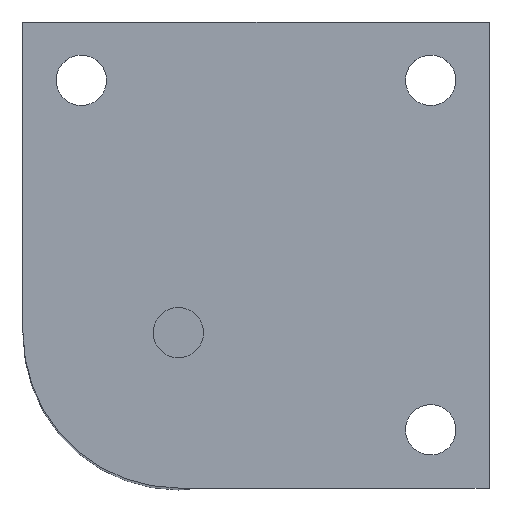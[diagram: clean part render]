
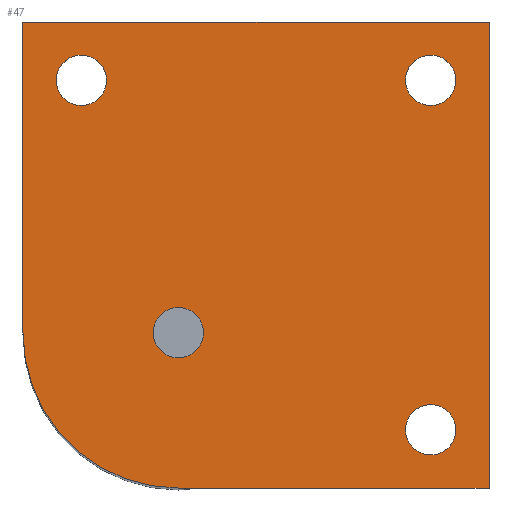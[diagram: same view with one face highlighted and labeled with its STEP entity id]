
A CAD part, top view. The second image highlights one B-rep face of the part: STEP entity #47.
In plain terms, the highlighted planar face has unit normal (0, 0, 1).
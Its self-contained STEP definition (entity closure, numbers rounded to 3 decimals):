
#47 = ADVANCED_FACE( '', ( #102, #103, #104, #105, #106 ), #107, .T. );
#102 = FACE_BOUND( '', #168, .T. );
#103 = FACE_BOUND( '', #169, .T. );
#104 = FACE_BOUND( '', #170, .T. );
#105 = FACE_BOUND( '', #171, .T. );
#106 = FACE_OUTER_BOUND( '', #172, .T. );
#107 = PLANE( '', #173 );
#168 = EDGE_LOOP( '', ( #240 ) );
#169 = EDGE_LOOP( '', ( #241 ) );
#170 = EDGE_LOOP( '', ( #242 ) );
#171 = EDGE_LOOP( '', ( #243 ) );
#172 = EDGE_LOOP( '', ( #244, #245, #246, #247, #248 ) );
#173 = AXIS2_PLACEMENT_3D( '', #249, #250, #251 );
#240 = ORIENTED_EDGE( '', *, *, #339, .F. );
#241 = ORIENTED_EDGE( '', *, *, #340, .F. );
#242 = ORIENTED_EDGE( '', *, *, #341, .F. );
#243 = ORIENTED_EDGE( '', *, *, #327, .F. );
#244 = ORIENTED_EDGE( '', *, *, #342, .T. );
#245 = ORIENTED_EDGE( '', *, *, #343, .T. );
#246 = ORIENTED_EDGE( '', *, *, #344, .T. );
#247 = ORIENTED_EDGE( '', *, *, #345, .T. );
#248 = ORIENTED_EDGE( '', *, *, #346, .T. );
#249 = CARTESIAN_POINT( '', ( -32.5, -32.5, 0. ) );
#250 = DIRECTION( '', ( 0., 0., 1. ) );
#251 = DIRECTION( '', ( 1., 0., 0. ) );
#327 = EDGE_CURVE( '', #370, #370, #371, .T. );
#339 = EDGE_CURVE( '', #391, #391, #392, .T. );
#340 = EDGE_CURVE( '', #393, #393, #394, .T. );
#341 = EDGE_CURVE( '', #395, #395, #396, .T. );
#342 = EDGE_CURVE( '', #397, #398, #399, .T. );
#343 = EDGE_CURVE( '', #398, #400, #401, .T. );
#344 = EDGE_CURVE( '', #400, #402, #403, .T. );
#345 = EDGE_CURVE( '', #402, #404, #405, .T. );
#346 = EDGE_CURVE( '', #404, #397, #406, .T. );
#370 = VERTEX_POINT( '', #432 );
#371 = CIRCLE( '', #433, 3.24 );
#391 = VERTEX_POINT( '', #457 );
#392 = CIRCLE( '', #458, 3.24 );
#393 = VERTEX_POINT( '', #459 );
#394 = CIRCLE( '', #460, 3.24 );
#395 = VERTEX_POINT( '', #461 );
#396 = CIRCLE( '', #462, 3.24 );
#397 = VERTEX_POINT( '', #463 );
#398 = VERTEX_POINT( '', #464 );
#399 = LINE( '', #465, #466 );
#400 = VERTEX_POINT( '', #467 );
#401 = CIRCLE( '', #468, 20. );
#402 = VERTEX_POINT( '', #469 );
#403 = LINE( '', #470, #471 );
#404 = VERTEX_POINT( '', #472 );
#405 = LINE( '', #473, #474 );
#406 = LINE( '', #475, #476 );
#432 = CARTESIAN_POINT( '', ( 3.24, 0., 0. ) );
#433 = AXIS2_PLACEMENT_3D( '', #507, #508, #509 );
#457 = CARTESIAN_POINT( '', ( -41.76, 0., 0. ) );
#458 = AXIS2_PLACEMENT_3D( '', #526, #527, #528 );
#459 = CARTESIAN_POINT( '', ( -29.26, -32.5, 0. ) );
#460 = AXIS2_PLACEMENT_3D( '', #529, #530, #531 );
#461 = CARTESIAN_POINT( '', ( 3.24, -45., 0. ) );
#462 = AXIS2_PLACEMENT_3D( '', #532, #533, #534 );
#463 = CARTESIAN_POINT( '', ( -52.5, 7.5, 0. ) );
#464 = CARTESIAN_POINT( '', ( -52.5, -32.5, 0. ) );
#465 = CARTESIAN_POINT( '', ( -52.5, 7.5, 0. ) );
#466 = VECTOR( '', #535, 1000. );
#467 = CARTESIAN_POINT( '', ( -32.5, -52.5, 0. ) );
#468 = AXIS2_PLACEMENT_3D( '', #536, #537, #538 );
#469 = CARTESIAN_POINT( '', ( 7.5, -52.5, 0. ) );
#470 = CARTESIAN_POINT( '', ( -32.5, -52.5, 0. ) );
#471 = VECTOR( '', #539, 1000. );
#472 = CARTESIAN_POINT( '', ( 7.5, 7.5, 0. ) );
#473 = CARTESIAN_POINT( '', ( 7.5, -52.5, 0. ) );
#474 = VECTOR( '', #540, 1000. );
#475 = CARTESIAN_POINT( '', ( 7.5, 7.5, 0. ) );
#476 = VECTOR( '', #541, 1000. );
#507 = CARTESIAN_POINT( '', ( 0., 0., 0. ) );
#508 = DIRECTION( '', ( 0., 0., 1. ) );
#509 = DIRECTION( '', ( 1., 0., 0. ) );
#526 = CARTESIAN_POINT( '', ( -45., 0., 0. ) );
#527 = DIRECTION( '', ( 0., 0., 1. ) );
#528 = DIRECTION( '', ( 1., 0., 0. ) );
#529 = CARTESIAN_POINT( '', ( -32.5, -32.5, 0. ) );
#530 = DIRECTION( '', ( 0., 0., 1. ) );
#531 = DIRECTION( '', ( 1., 0., 0. ) );
#532 = CARTESIAN_POINT( '', ( 0., -45., 0. ) );
#533 = DIRECTION( '', ( 0., 0., 1. ) );
#534 = DIRECTION( '', ( 1., 0., 0. ) );
#535 = DIRECTION( '', ( 0., -1., 0. ) );
#536 = CARTESIAN_POINT( '', ( -32.5, -32.5, 0. ) );
#537 = DIRECTION( '', ( 0., 0., 1. ) );
#538 = DIRECTION( '', ( 1., 0., 0. ) );
#539 = DIRECTION( '', ( 1., 0., 0. ) );
#540 = DIRECTION( '', ( 0., 1., 0. ) );
#541 = DIRECTION( '', ( -1., 0., 0. ) );
